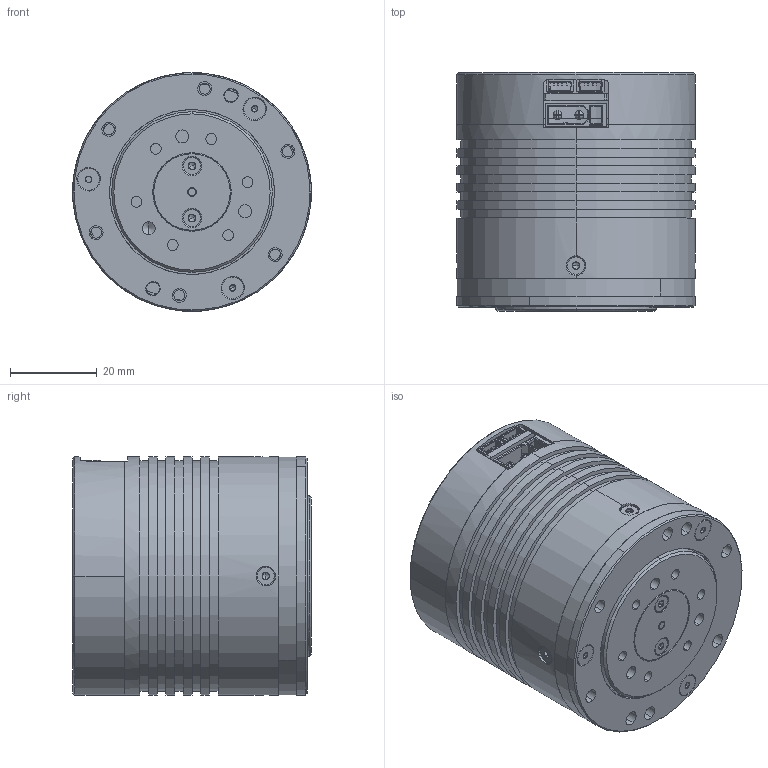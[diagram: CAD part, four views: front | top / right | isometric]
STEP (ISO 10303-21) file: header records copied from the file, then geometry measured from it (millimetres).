
FILE_DESCRIPTION (( 'STEP AP203' ), '1' );
FILE_NAME ('X4-P12-10.STEP', '2025-09-13T06:12:11', ( '微软用户' ), ( '微软中国' ), 'SwSTEP 2.0', 'SolidWorks 2020', '' );
FILE_SCHEMA (( 'CONFIG_CONTROL_DESIGN' ));
Length unit declared in the file: millimetre
Products named in the file (1): X4-P12-10
Bounding box: 55 x 55 x 55 mm (x, y, z)
Surface area: 26144.1 mm2 (no closed solid volume)
Topology: 0 solids, 47 shells, 474 faces, 1579 edges, 1132 vertices
Faces by surface type: plane 239, cone 114, cylinder 113, sphere 8
Entity records: 17890 total; most frequent: CARTESIAN_POINT 4492, DIRECTION 2732, ORIENTED_EDGE 2403, EDGE_CURVE 1557, VERTEX_POINT 1132, AXIS2_PLACEMENT_3D 956, VECTOR 820, LINE 820
